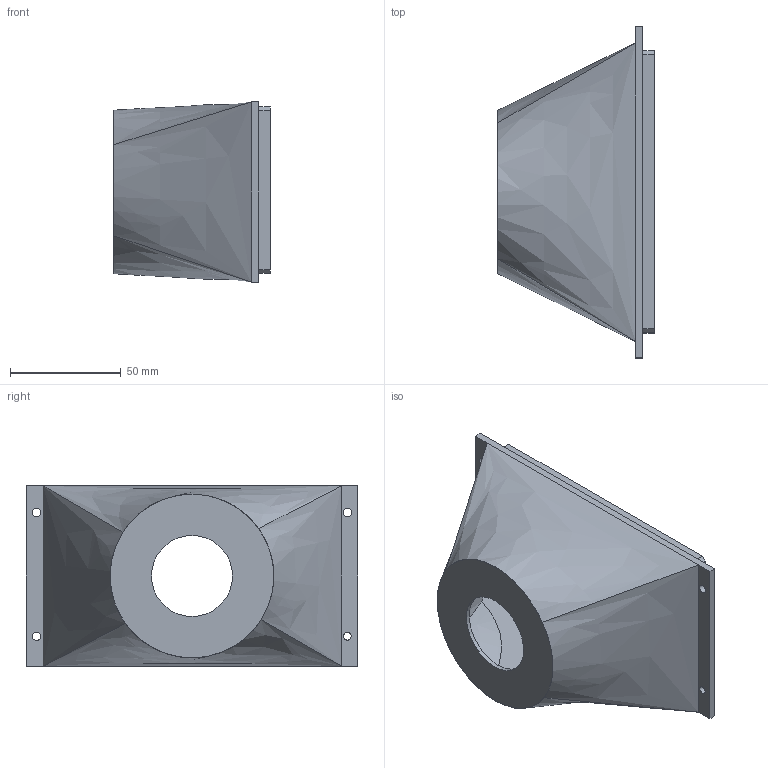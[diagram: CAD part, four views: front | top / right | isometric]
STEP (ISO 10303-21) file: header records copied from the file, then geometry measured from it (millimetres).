
FILE_DESCRIPTION(/* description */ (''),/* implementation_level */ '2;1');
FILE_NAME(/* name */ 'C:/Users/mcjor/3D Objects/6x17 Camera/6x12/90mm cone super angulon (98.8mm flange).stp',/* time_stamp */ '2022-07-03T17:37:06+02:00',/* author */ (''),/* organization */ (''),/* preprocessor_version */ 'ST-DEVELOPER v15.2',/* originating_system */ 'Autodesk Translator Framework v2.0.0.5431',/* authorisation */ '');
FILE_SCHEMA (('AUTOMOTIVE_DESIGN { 1 0 10303 214 3 1 1 }'));
Length unit declared in the file: centimetre
Products named in the file (1): 90mm cone SA
Bounding box: 70.83 x 150 x 81.51 mm (x, y, z)
Volume: 71946.1 mm3; surface area: 59802.6 mm2
Topology: 1 solids, 1 shells, 48 faces, 128 edges, 84 vertices
Faces by surface type: plane 33, bspline 9, cylinder 6
Full cylindrical faces by diameter (mm): 3.439 x1, 3.839 x3, 36.6 x1, 74 x1
Entity records: 1854 total; most frequent: CARTESIAN_POINT 699, ORIENTED_EDGE 244, DIRECTION 194, EDGE_CURVE 122, VERTEX_POINT 84, LINE 82, VECTOR 82, EDGE_LOOP 66
